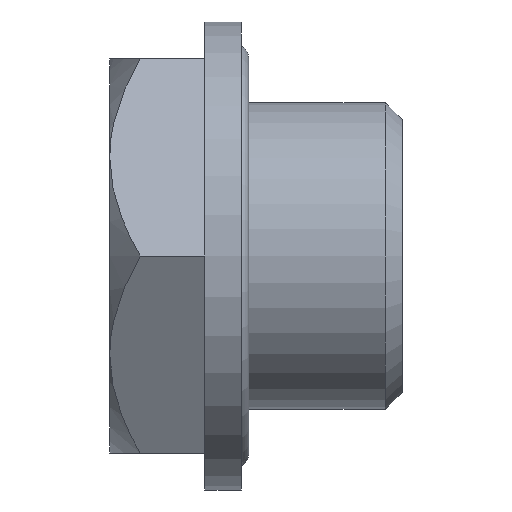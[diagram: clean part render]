
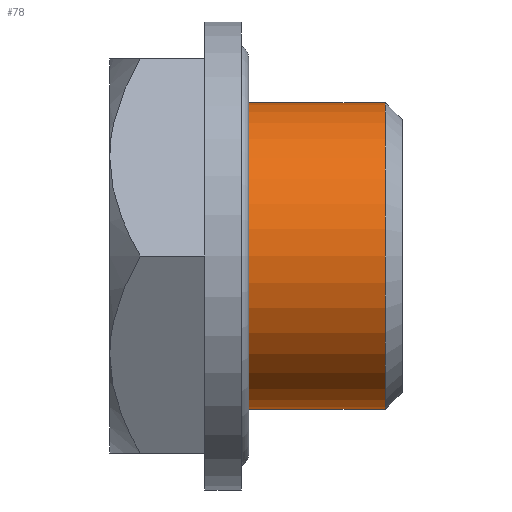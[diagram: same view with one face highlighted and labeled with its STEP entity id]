
A CAD part, left-side view. The second image highlights one B-rep face of the part: STEP entity #78.
In plain terms, the highlighted cylindrical face has radius 10.477 mm (diameter 20.955 mm), a full revolution.
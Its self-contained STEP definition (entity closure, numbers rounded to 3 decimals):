
#78 = ADVANCED_FACE( '', ( #136, #137 ), #138, .T. );
#136 = FACE_OUTER_BOUND( '', #253, .T. );
#137 = FACE_OUTER_BOUND( '', #254, .T. );
#138 = CYLINDRICAL_SURFACE( '', #255, 10.478 );
#253 = EDGE_LOOP( '', ( #380 ) );
#254 = EDGE_LOOP( '', ( #381 ) );
#255 = AXIS2_PLACEMENT_3D( '', #382, #383, #384 );
#380 = ORIENTED_EDGE( '', *, *, #757, .F. );
#381 = ORIENTED_EDGE( '', *, *, #758, .T. );
#382 = CARTESIAN_POINT( '', ( 0., 0., 0. ) );
#383 = DIRECTION( '', ( 0., 1., 0. ) );
#384 = DIRECTION( '', ( 0., 0., -1. ) );
#757 = EDGE_CURVE( '', #880, #880, #881, .T. );
#758 = EDGE_CURVE( '', #882, #882, #883, .T. );
#880 = VERTEX_POINT( '', #1090 );
#881 = CIRCLE( '', #1091, 10.478 );
#882 = VERTEX_POINT( '', #1092 );
#883 = CIRCLE( '', #1093, 10.478 );
#1090 = CARTESIAN_POINT( '', ( 0., 1.162, -10.478 ) );
#1091 = AXIS2_PLACEMENT_3D( '', #1436, #1437, #1438 );
#1092 = CARTESIAN_POINT( '', ( 0., 11., -10.478 ) );
#1093 = AXIS2_PLACEMENT_3D( '', #1439, #1440, #1441 );
#1436 = CARTESIAN_POINT( '', ( 0., 1.162, 0. ) );
#1437 = DIRECTION( '', ( 0., -1., 0. ) );
#1438 = DIRECTION( '', ( 0., 0., -1. ) );
#1439 = CARTESIAN_POINT( '', ( 0., 11., 0. ) );
#1440 = DIRECTION( '', ( 0., -1., 0. ) );
#1441 = DIRECTION( '', ( 0., 0., -1. ) );
